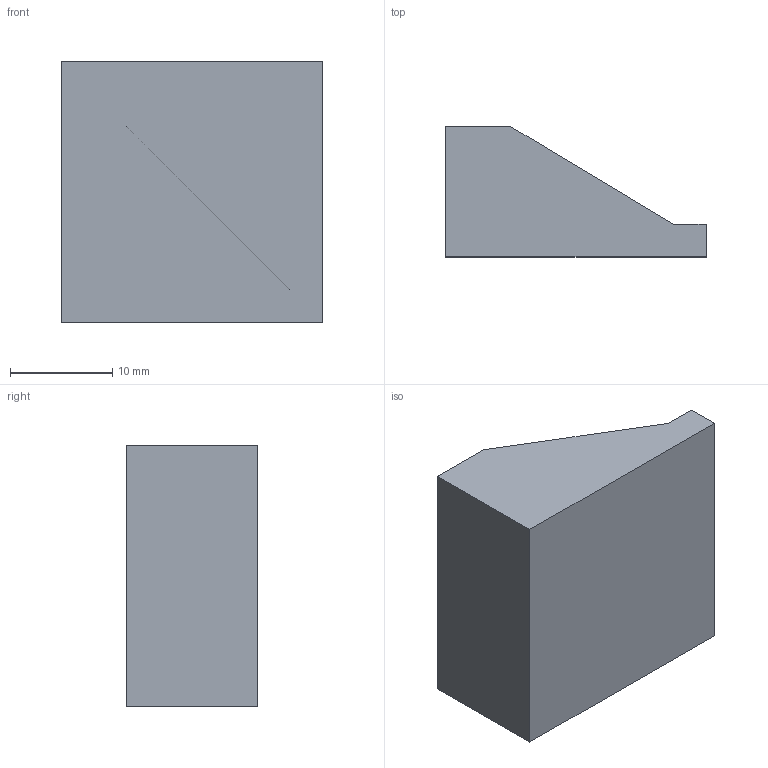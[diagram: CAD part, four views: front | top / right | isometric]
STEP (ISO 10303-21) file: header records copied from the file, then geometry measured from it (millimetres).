
FILE_DESCRIPTION (( 'STEP AP203' ), '1' );
FILE_NAME ('HM9205-2FJ.STEP', '2023-08-25T14:08:05', ( '' ), ( '' ), 'SwSTEP 2.0', 'SolidWorks 2020', '' );
FILE_SCHEMA (( 'CONFIG_CONTROL_DESIGN' ));
Length unit declared in the file: inch
Products named in the file (1): HM9205-2FJ
Bounding box: 25.4 x 12.7 x 25.4 mm (x, y, z)
Volume: 5505 mm3; surface area: 2194 mm2
Topology: 1 solids, 1 shells, 8 faces, 18 edges, 12 vertices
Faces by surface type: plane 8
Entity records: 301 total; most frequent: CARTESIAN_POINT 39, ORIENTED_EDGE 36, DIRECTION 36, LINE 18, EDGE_CURVE 18, VECTOR 18, VERTEX_POINT 12, AXIS2_PLACEMENT_3D 9
